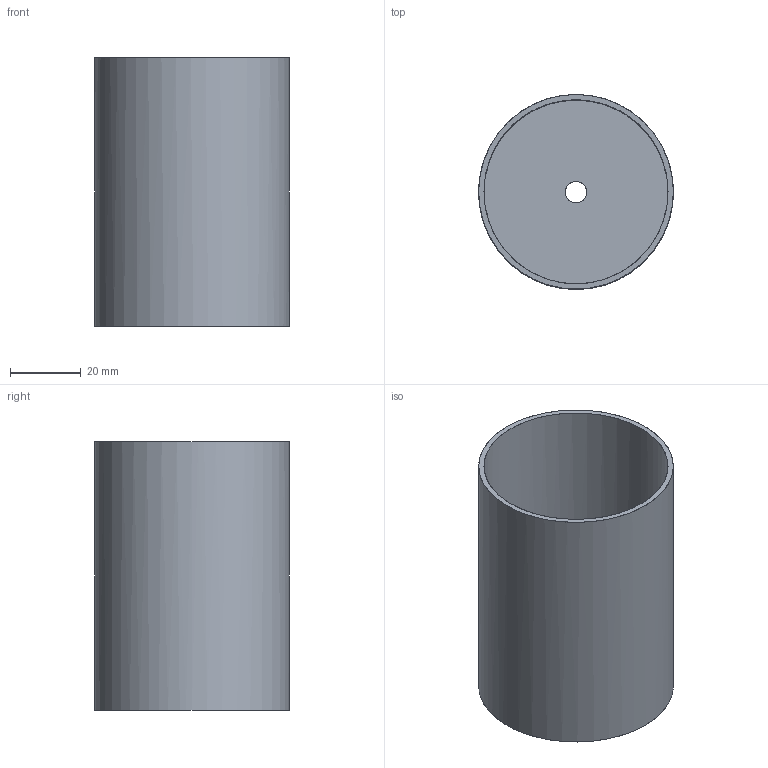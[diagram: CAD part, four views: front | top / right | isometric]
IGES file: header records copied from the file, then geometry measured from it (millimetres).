
Start section: SolidWorks IGES file using NURBS representation for surfaces
Global section: file name: Z:\Modele 3D_WWW\_CAMELEON\PUSZKI WWW\CAMELEON-CANOPY_E_8551_8550\CANOPY_E_8551_8550.IGS; native system: SolidWorks 2021; preprocessor: SolidWorks 2021; author: gabriela.tworek; date: 220301.121350; units: millimetre
Bounding box: 55 x 55 x 76 mm (x, y, z)
Surface area: 30437.9 mm2 (no closed solid volume)
Topology: 0 solids, 0 shells, 8 faces, 36 edges, 32 vertices
Faces by surface type: bspline 8
